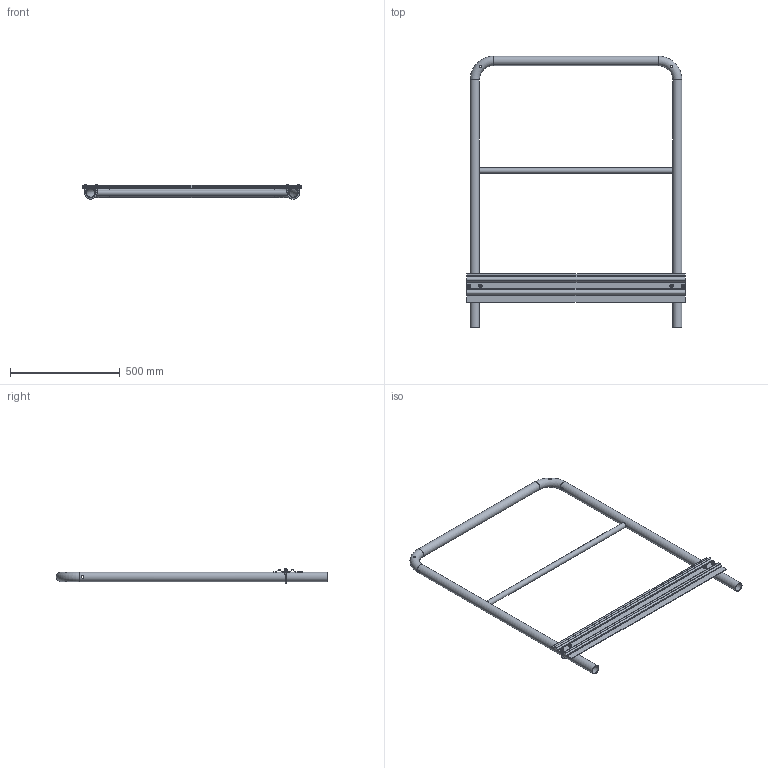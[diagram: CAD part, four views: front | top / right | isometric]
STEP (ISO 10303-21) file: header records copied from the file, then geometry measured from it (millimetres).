
FILE_DESCRIPTION((''),'2;1');
FILE_NAME('S:\Användarkataloger\AndreasA\Mina Inventor filer\Räcken\STEP\modul_ind_slist_1000-1216.stp','2010-09-07T13:18:26',('AndreasA'),(''),'Autodesk Inventor 2011','Autodesk Inventor 2011','');
FILE_SCHEMA(('AUTOMOTIVE_DESIGN { 1 0 10303 214 1 1 1 1 }'));
Length unit declared in the file: millimetre
Products named in the file (9): modul_ind_slist_1000-1216; modul_ind_1000-1216; handledare_modul_1000-1216; mellanliggare_modul_1000; sparklist_k130_modul_1000; bygelskruv_U42_kpl; bygelskruv_U42; SS 3576 8; ISO 4032 M8
Assembly tree (11 placements, depth 3):
  modul_ind_slist_1000-1216
    modul_ind_1000-1216
      handledare_modul_1000-1216
      mellanliggare_modul_1000
    sparklist_k130_modul_1000
    bygelskruv_U42_kpl  x2
      bygelskruv_U42
      SS 3576 8
      ISO 4032 M8
Bounding box: 996 x 1237.2 x 64.99 mm (x, y, z)
Volume: 1338118.5 mm3; surface area: 1267573.7 mm2
Topology: 13 solids, 13 shells, 148 faces, 350 edges, 224 vertices
Faces by surface type: plane 66, cylinder 52, cone 24, torus 6
Full cylindrical faces by diameter (mm): 6.647 x4, 7 x4, 8 x4, 8.4 x4, 10 x4, 11 x8, 16 x4, 21 x1, 25 x1, 38.4 x3, 42.4 x3
Entity records: 3275 total; most frequent: CARTESIAN_POINT 1136, DIRECTION 414, ORIENTED_EDGE 324, AXIS2_PLACEMENT_3D 174, EDGE_CURVE 162, EDGE_LOOP 158, VERTEX_POINT 128, FACE_OUTER_BOUND 86
